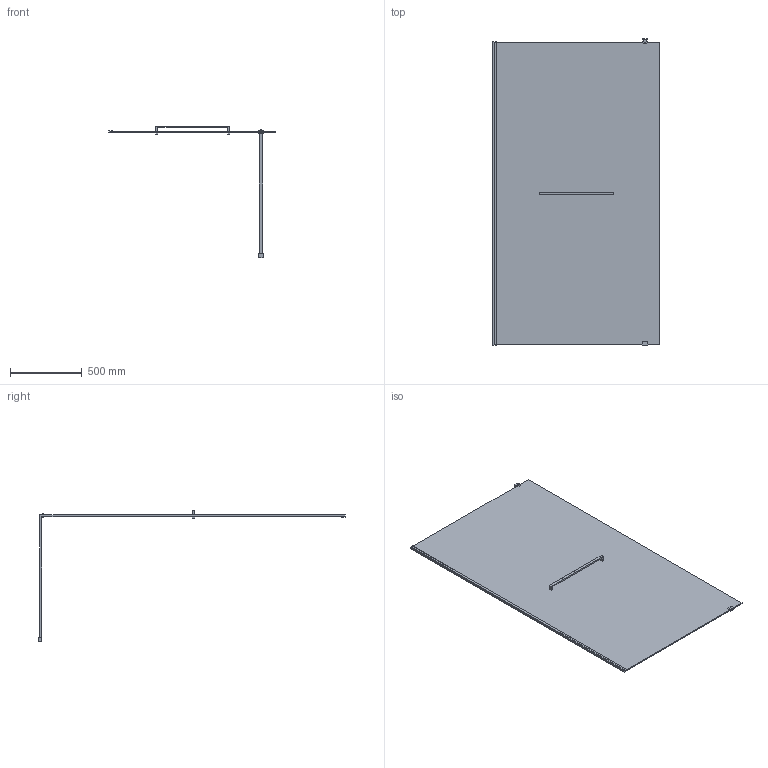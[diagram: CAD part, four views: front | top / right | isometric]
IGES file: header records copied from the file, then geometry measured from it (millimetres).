
Start section: SolidWorks IGES file using analytic representation for surfaces
Global section: file name: D:\Users\M.Szymanski\Desktop\Kabiny\PIII_ALTIIa\03. do przegrania\PIII_ALTIIa_120_z_relingiem_K3D.IGS; native system: SolidWorks 2011; preprocessor: SolidWorks 2011; author: M.Szymanski; date: 181005.104258; units: millimetre
Bounding box: 1158.45 x 2128 x 914.13 mm (x, y, z)
Surface area: 5201430.1 mm2 (no closed solid volume)
Topology: 0 solids, 0 shells, 62 faces, 444 edges, 592 vertices
Faces by surface type: bspline 62
